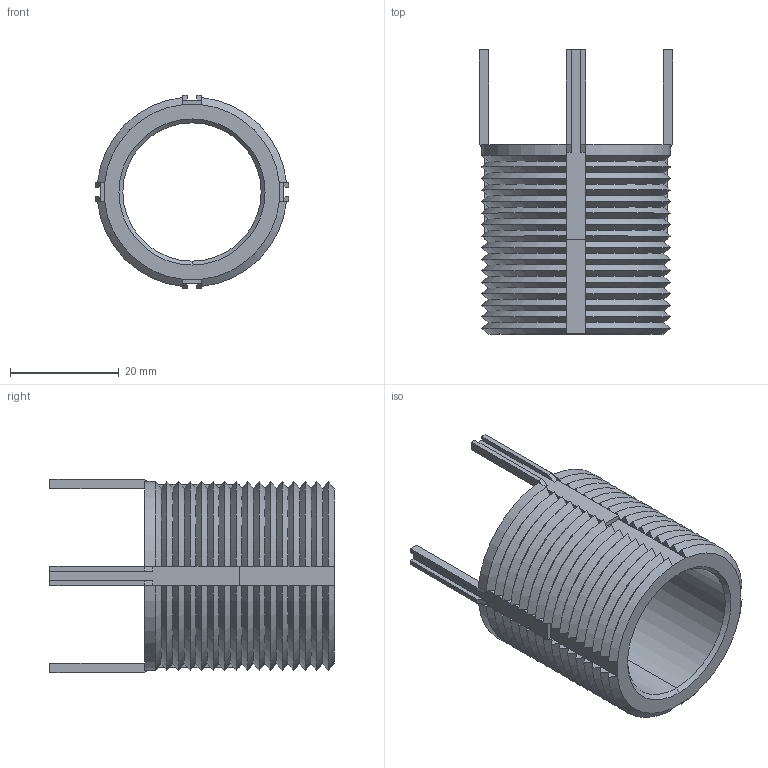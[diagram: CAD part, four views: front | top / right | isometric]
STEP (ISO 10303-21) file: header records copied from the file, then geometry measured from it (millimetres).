
FILE_DESCRIPTION (( 'STEP AP203' ), '1' );
FILE_NAME ('TR1565.66511.step', '2023-03-29T14:34:52', ( '' ), ( '' ), 'SwSTEP 2.0', 'SolidWorks 2019', '' );
FILE_SCHEMA (( 'CONFIG_CONTROL_DESIGN' ));
Length unit declared in the file: inch
Products named in the file (3): TR1565.66511; Part2_TR1565.66511; Part1_TR1565.66511
Assembly tree (5 placements, depth 2):
  TR1565.66511
    Part1_TR1565.66511
    Part2_TR1565.66511  x4
Bounding box: 35.48 x 52.2 x 35.48 mm (x, y, z)
Volume: 13489.7 mm3; surface area: 10616.9 mm2
Topology: 5 solids, 5 shells, 316 faces, 666 edges, 360 vertices
Faces by surface type: plane 182, cone 128, cylinder 6
Entity records: 8427 total; most frequent: CARTESIAN_POINT 2652, ORIENTED_EDGE 1152, DIRECTION 1044, EDGE_CURVE 576, AXIS2_PLACEMENT_3D 428, VERTEX_POINT 300, EDGE_LOOP 282, ADVANCED_FACE 280
